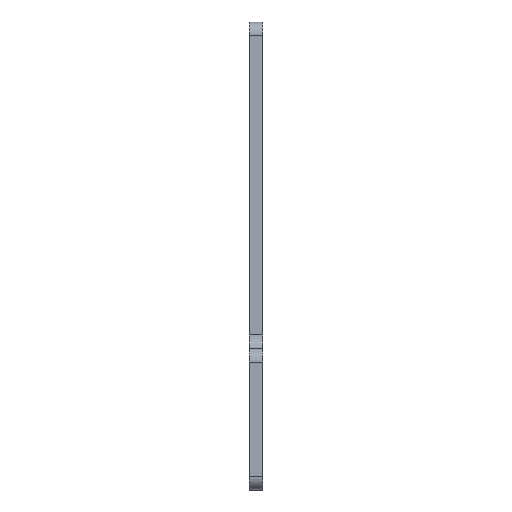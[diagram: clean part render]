
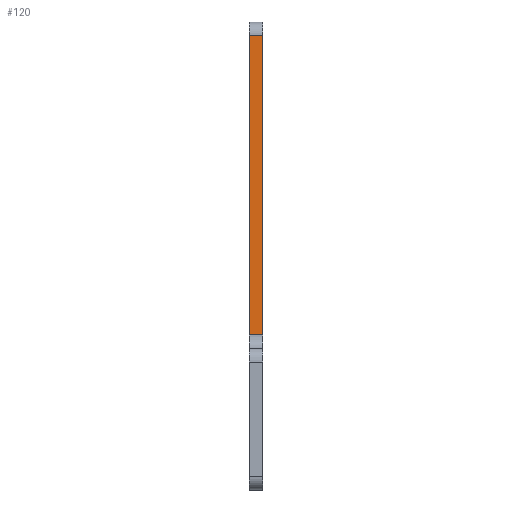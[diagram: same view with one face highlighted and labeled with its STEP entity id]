
A CAD part, left-side view. The second image highlights one B-rep face of the part: STEP entity #120.
In plain terms, the highlighted planar face has unit normal (-1, 0, 0).
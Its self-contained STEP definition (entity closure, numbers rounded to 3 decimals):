
#44 = CARTESIAN_POINT ( 'NONE',  ( -13., 2.5, 70.5 ) ) ;
#69 = DIRECTION ( 'NONE',  ( 0., 1., 0. ) ) ;
#72 = VERTEX_POINT ( 'NONE', #410 ) ;
#117 = PLANE ( 'NONE',  #683 ) ;
#120 = ADVANCED_FACE ( 'NONE', ( #510 ), #117, .T. ) ;
#130 = CARTESIAN_POINT ( 'NONE',  ( -13., 2.5, 15.5 ) ) ;
#132 = VERTEX_POINT ( 'NONE', #44 ) ;
#186 = LINE ( 'NONE', #575, #751 ) ;
#260 = ORIENTED_EDGE ( 'NONE', *, *, #817, .F. ) ;
#295 = ORIENTED_EDGE ( 'NONE', *, *, #813, .F. ) ;
#309 = VERTEX_POINT ( 'NONE', #591 ) ;
#314 = ORIENTED_EDGE ( 'NONE', *, *, #446, .T. ) ;
#335 = DIRECTION ( 'NONE',  ( -1., 0., 0. ) ) ;
#358 = DIRECTION ( 'NONE',  ( 0., -1., 0. ) ) ;
#382 = VECTOR ( 'NONE', #69, 1000. ) ;
#390 = LINE ( 'NONE', #130, #382 ) ;
#402 = VECTOR ( 'NONE', #358, 1000. ) ;
#410 = CARTESIAN_POINT ( 'NONE',  ( -13., 0., 15.5 ) ) ;
#446 = EDGE_CURVE ( 'NONE', #132, #726, #585, .T. ) ;
#454 = VECTOR ( 'NONE', #783, 1000. ) ;
#485 = EDGE_CURVE ( 'NONE', #132, #309, #879, .T. ) ;
#490 = CARTESIAN_POINT ( 'NONE',  ( -13., 2.5, 15.5 ) ) ;
#510 = FACE_OUTER_BOUND ( 'NONE', #824, .T. ) ;
#516 = DIRECTION ( 'NONE',  ( 0., 0., -1. ) ) ;
#560 = CARTESIAN_POINT ( 'NONE',  ( -13., 0., 73. ) ) ;
#575 = CARTESIAN_POINT ( 'NONE',  ( -13., 0., 73. ) ) ;
#585 = LINE ( 'NONE', #649, #454 ) ;
#591 = CARTESIAN_POINT ( 'NONE',  ( -13., 0., 70.5 ) ) ;
#649 = CARTESIAN_POINT ( 'NONE',  ( -13., 2.5, 73. ) ) ;
#654 = CARTESIAN_POINT ( 'NONE',  ( -13., 0., 70.5 ) ) ;
#683 = AXIS2_PLACEMENT_3D ( 'NONE', #560, #335, #769 ) ;
#726 = VERTEX_POINT ( 'NONE', #490 ) ;
#751 = VECTOR ( 'NONE', #516, 1000. ) ;
#769 = DIRECTION ( 'NONE',  ( 0., 0., -1. ) ) ;
#783 = DIRECTION ( 'NONE',  ( 0., 0., -1. ) ) ;
#813 = EDGE_CURVE ( 'NONE', #72, #726, #390, .T. ) ;
#817 = EDGE_CURVE ( 'NONE', #309, #72, #186, .T. ) ;
#824 = EDGE_LOOP ( 'NONE', ( #314, #295, #260, #832 ) ) ;
#832 = ORIENTED_EDGE ( 'NONE', *, *, #485, .F. ) ;
#879 = LINE ( 'NONE', #654, #402 ) ;
